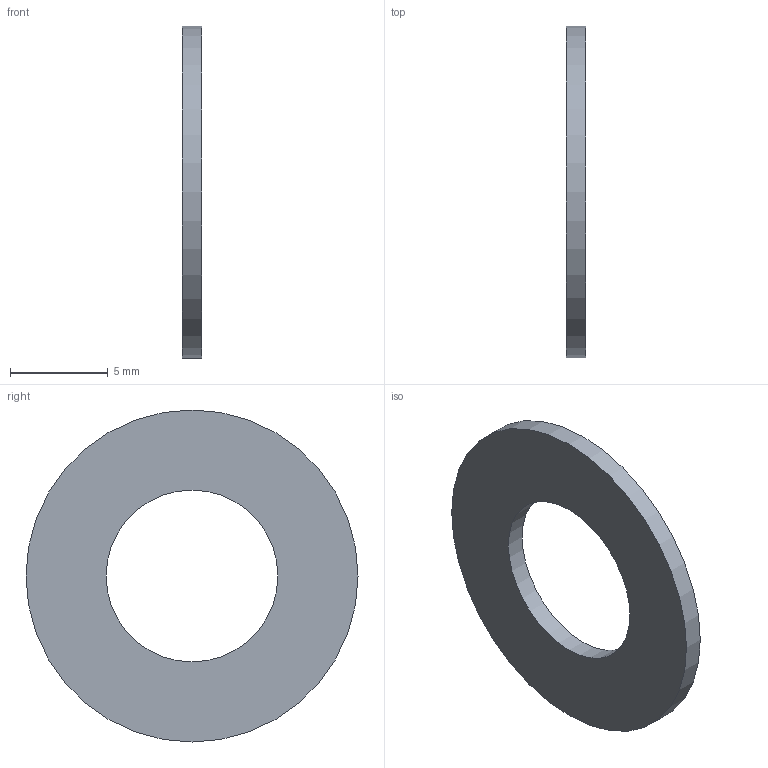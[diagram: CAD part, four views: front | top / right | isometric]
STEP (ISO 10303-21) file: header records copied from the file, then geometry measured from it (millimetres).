
FILE_DESCRIPTION(('Open CASCADE Model'),'2;1');
FILE_NAME('Open CASCADE Shape Model','2026-09-19T23:42:05',('Author'),( 'Open CASCADE'),'Open CASCADE STEP processor 7.9','Open CASCADE 7.9' ,'Unknown');
FILE_SCHEMA(('AUTOMOTIVE_DESIGN { 1 0 10303 214 1 1 1 1 }'));
Length unit declared in the file: millimetre
Products named in the file (1): Open CASCADE STEP translator 7.9 4
Bounding box: 1 x 17 x 17 mm (x, y, z)
Volume: 166.2 mm3; surface area: 413.4 mm2
Topology: 1 solids, 1 shells, 4 faces, 6 edges, 4 vertices
Faces by surface type: cylinder 2, plane 2
Full cylindrical faces by diameter (mm): 8.8 x1, 17 x1
Entity records: 186 total; most frequent: DIRECTION 32, CARTESIAN_POINT 27, ORIENTED_EDGE 12, PCURVE 12, DEFINITIONAL_REPRESENTATION 12, LINE 10, VECTOR 10, AXIS2_PLACEMENT_3D 9
